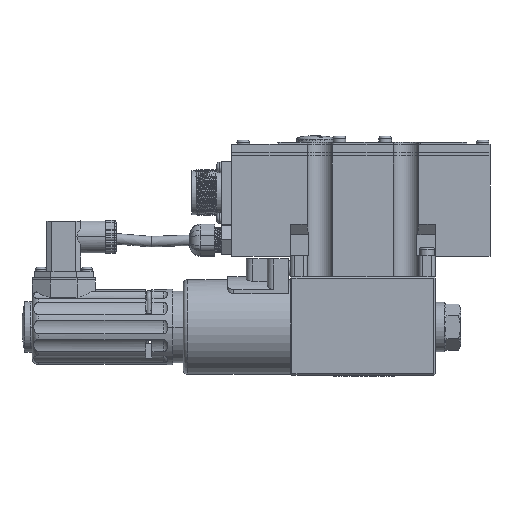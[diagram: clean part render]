
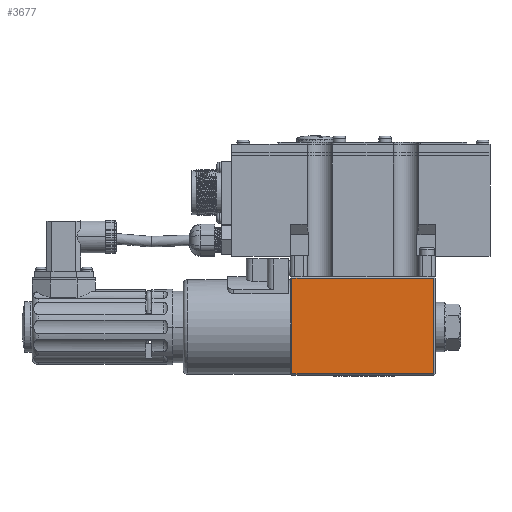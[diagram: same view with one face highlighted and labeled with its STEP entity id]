
A CAD part, front view. The second image highlights one B-rep face of the part: STEP entity #3677.
In plain terms, the highlighted planar face has unit normal (0, -1, 0).
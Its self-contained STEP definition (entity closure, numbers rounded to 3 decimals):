
#2627=FACE_OUTER_BOUND('',#8754,.T.);
#3677=ADVANCED_FACE('',(#2627),#4925,.T.);
#4925=PLANE('',#21656);
#5664=LINE('',#30935,#6938);
#5665=LINE('',#30938,#6939);
#5666=LINE('',#30940,#6940);
#5667=LINE('',#30942,#6941);
#6938=VECTOR('',#24042,1.);
#6939=VECTOR('',#24043,1.);
#6940=VECTOR('',#24044,1.);
#6941=VECTOR('',#24045,1.);
#8754=EDGE_LOOP('',(#10450,#10451,#10452,#10453));
#10450=ORIENTED_EDGE('',*,*,#17865,.T.);
#10451=ORIENTED_EDGE('',*,*,#17866,.T.);
#10452=ORIENTED_EDGE('',*,*,#17867,.T.);
#10453=ORIENTED_EDGE('',*,*,#17868,.T.);
#16012=VERTEX_POINT('',#30936);
#16013=VERTEX_POINT('',#30937);
#16014=VERTEX_POINT('',#30939);
#16015=VERTEX_POINT('',#30941);
#17865=EDGE_CURVE('',#16012,#16013,#5664,.T.);
#17866=EDGE_CURVE('',#16013,#16014,#5665,.T.);
#17867=EDGE_CURVE('',#16014,#16015,#5666,.T.);
#17868=EDGE_CURVE('',#16015,#16012,#5667,.T.);
#21656=AXIS2_PLACEMENT_3D('',#30943,#24046,#24047);
#24042=DIRECTION('',(0.,0.,-1.));
#24043=DIRECTION('',(1.,0.,0.));
#24044=DIRECTION('',(0.,0.,1.));
#24045=DIRECTION('',(-1.,0.,0.));
#24046=DIRECTION('',(0.,-1.,0.));
#24047=DIRECTION('',(0.,0.,1.));
#30935=CARTESIAN_POINT('',(0.7,-22.,-23.));
#30936=CARTESIAN_POINT('',(0.7,-22.,23.3));
#30937=CARTESIAN_POINT('',(0.7,-22.,-22.3));
#30938=CARTESIAN_POINT('',(34.5,-22.,-22.3));
#30939=CARTESIAN_POINT('',(68.3,-22.,-22.3));
#30940=CARTESIAN_POINT('',(68.3,-22.,-23.));
#30941=CARTESIAN_POINT('',(68.3,-22.,23.3));
#30942=CARTESIAN_POINT('',(34.5,-22.,23.3));
#30943=CARTESIAN_POINT('',(34.5,-22.,-23.));
